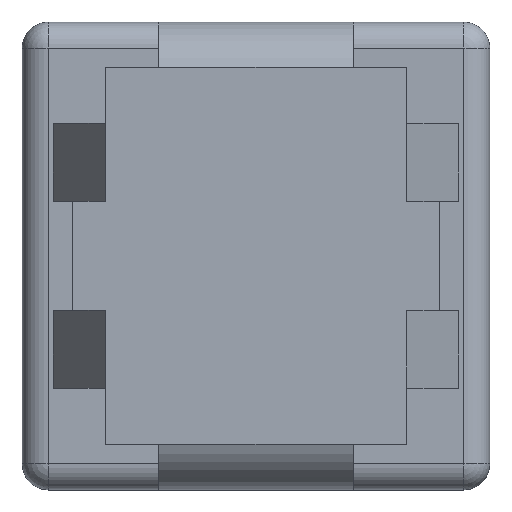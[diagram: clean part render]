
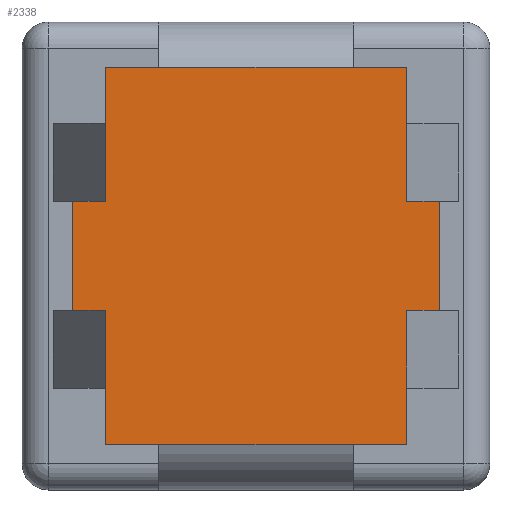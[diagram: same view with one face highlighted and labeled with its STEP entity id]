
A CAD part, top view. The second image highlights one B-rep face of the part: STEP entity #2338.
In plain terms, the highlighted planar face has unit normal (0, 0, 1).
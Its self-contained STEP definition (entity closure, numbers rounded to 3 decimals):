
#114=CARTESIAN_POINT('',(17.034,-24.1,0.193));
#115=VERTEX_POINT('',#114);
#122=CARTESIAN_POINT('',(15.784,-24.1,0.193));
#123=VERTEX_POINT('',#122);
#124=CARTESIAN_POINT('',(17.034,-24.1,0.193));
#125=DIRECTION('',(-1.,0.,-0.));
#126=VECTOR('',#125,1.25);
#127=LINE('',#124,#126);
#128=EDGE_CURVE('',#115,#123,#127,.T.);
#154=CARTESIAN_POINT('',(15.784,-19.9,0.193));
#155=VERTEX_POINT('',#154);
#162=CARTESIAN_POINT('',(17.034,-19.9,0.193));
#163=VERTEX_POINT('',#162);
#164=CARTESIAN_POINT('',(15.784,-19.9,0.193));
#165=DIRECTION('',(1.,-0.,0.));
#166=VECTOR('',#165,1.25);
#167=LINE('',#164,#166);
#168=EDGE_CURVE('',#155,#163,#167,.T.);
#1807=CARTESIAN_POINT('',(15.784,-14.75,0.193));
#1808=VERTEX_POINT('',#1807);
#1815=CARTESIAN_POINT('',(15.784,-14.75,0.193));
#1816=DIRECTION('',(-0.,-1.,-0.));
#1817=VECTOR('',#1816,5.15);
#1818=LINE('',#1815,#1817);
#1819=EDGE_CURVE('',#1808,#155,#1818,.T.);
#1880=CARTESIAN_POINT('',(4.184,-24.1,0.193));
#1881=VERTEX_POINT('',#1880);
#1888=CARTESIAN_POINT('',(2.934,-24.1,0.193));
#1889=VERTEX_POINT('',#1888);
#1890=CARTESIAN_POINT('',(4.184,-24.1,0.193));
#1891=DIRECTION('',(-1.,0.,-0.));
#1892=VECTOR('',#1891,1.25);
#1893=LINE('',#1890,#1892);
#1894=EDGE_CURVE('',#1881,#1889,#1893,.T.);
#1918=CARTESIAN_POINT('',(4.184,-19.9,0.193));
#1919=VERTEX_POINT('',#1918);
#1926=CARTESIAN_POINT('',(4.184,-17.375,0.193));
#1927=VERTEX_POINT('',#1926);
#1928=CARTESIAN_POINT('',(4.184,-19.9,0.193));
#1929=DIRECTION('',(-0.,1.,0.));
#1930=VECTOR('',#1929,2.525);
#1931=LINE('',#1928,#1930);
#1932=EDGE_CURVE('',#1919,#1927,#1931,.T.);
#1934=CARTESIAN_POINT('',(4.184,-14.75,0.193));
#1935=VERTEX_POINT('',#1934);
#1936=CARTESIAN_POINT('',(4.184,-17.375,0.193));
#1937=DIRECTION('',(-0.,1.,0.));
#1938=VECTOR('',#1937,2.625);
#1939=LINE('',#1936,#1938);
#1940=EDGE_CURVE('',#1927,#1935,#1939,.T.);
#2213=CARTESIAN_POINT('',(21.484,-22.,0.193));
#2214=DIRECTION('',(-0.,-0.,1.));
#2215=DIRECTION('',(1.,-0.,0.));
#2216=AXIS2_PLACEMENT_3D('',#2213,#2214,#2215);
#2217=PLANE('',#2216);
#2218=CARTESIAN_POINT('',(13.984,-14.75,0.193));
#2219=VERTEX_POINT('',#2218);
#2220=CARTESIAN_POINT('',(13.984,-14.75,0.193));
#2221=DIRECTION('',(1.,-0.,0.));
#2222=VECTOR('',#2221,1.8);
#2223=LINE('',#2220,#2222);
#2224=EDGE_CURVE('',#2219,#1808,#2223,.T.);
#2225=ORIENTED_EDGE('',*,*,#2224,.F.);
#2226=CARTESIAN_POINT('',(9.984,-14.75,0.193));
#2227=VERTEX_POINT('',#2226);
#2228=CARTESIAN_POINT('',(9.984,-14.75,0.193));
#2229=DIRECTION('',(1.,-0.,0.));
#2230=VECTOR('',#2229,4.);
#2231=LINE('',#2228,#2230);
#2232=EDGE_CURVE('',#2227,#2219,#2231,.T.);
#2233=ORIENTED_EDGE('',*,*,#2232,.F.);
#2234=CARTESIAN_POINT('',(5.984,-14.75,0.193));
#2235=VERTEX_POINT('',#2234);
#2236=CARTESIAN_POINT('',(5.984,-14.75,0.193));
#2237=DIRECTION('',(1.,-0.,0.));
#2238=VECTOR('',#2237,4.);
#2239=LINE('',#2236,#2238);
#2240=EDGE_CURVE('',#2235,#2227,#2239,.T.);
#2241=ORIENTED_EDGE('',*,*,#2240,.F.);
#2242=CARTESIAN_POINT('',(4.184,-14.75,0.193));
#2243=DIRECTION('',(1.,-0.,0.));
#2244=VECTOR('',#2243,1.8);
#2245=LINE('',#2242,#2244);
#2246=EDGE_CURVE('',#1935,#2235,#2245,.T.);
#2247=ORIENTED_EDGE('',*,*,#2246,.F.);
#2248=ORIENTED_EDGE('',*,*,#1940,.F.);
#2249=ORIENTED_EDGE('',*,*,#1932,.F.);
#2250=CARTESIAN_POINT('',(2.934,-19.9,0.193));
#2251=VERTEX_POINT('',#2250);
#2252=CARTESIAN_POINT('',(2.934,-19.9,0.193));
#2253=DIRECTION('',(1.,-0.,0.));
#2254=VECTOR('',#2253,1.25);
#2255=LINE('',#2252,#2254);
#2256=EDGE_CURVE('',#2251,#1919,#2255,.T.);
#2257=ORIENTED_EDGE('',*,*,#2256,.F.);
#2258=CARTESIAN_POINT('',(2.934,-22.,0.193));
#2259=VERTEX_POINT('',#2258);
#2260=CARTESIAN_POINT('',(2.934,-22.,0.193));
#2261=DIRECTION('',(0.,1.,0.));
#2262=VECTOR('',#2261,2.1);
#2263=LINE('',#2260,#2262);
#2264=EDGE_CURVE('',#2259,#2251,#2263,.T.);
#2265=ORIENTED_EDGE('',*,*,#2264,.F.);
#2266=CARTESIAN_POINT('',(2.934,-24.1,0.193));
#2267=DIRECTION('',(0.,1.,0.));
#2268=VECTOR('',#2267,2.1);
#2269=LINE('',#2266,#2268);
#2270=EDGE_CURVE('',#1889,#2259,#2269,.T.);
#2271=ORIENTED_EDGE('',*,*,#2270,.F.);
#2272=ORIENTED_EDGE('',*,*,#1894,.F.);
#2273=CARTESIAN_POINT('',(4.184,-26.625,0.193));
#2274=VERTEX_POINT('',#2273);
#2275=CARTESIAN_POINT('',(4.184,-26.625,0.193));
#2276=DIRECTION('',(-0.,1.,0.));
#2277=VECTOR('',#2276,2.525);
#2278=LINE('',#2275,#2277);
#2279=EDGE_CURVE('',#2274,#1881,#2278,.T.);
#2280=ORIENTED_EDGE('',*,*,#2279,.F.);
#2281=CARTESIAN_POINT('',(4.184,-29.25,0.193));
#2282=VERTEX_POINT('',#2281);
#2283=CARTESIAN_POINT('',(4.184,-29.25,0.193));
#2284=DIRECTION('',(-0.,1.,0.));
#2285=VECTOR('',#2284,2.625);
#2286=LINE('',#2283,#2285);
#2287=EDGE_CURVE('',#2282,#2274,#2286,.T.);
#2288=ORIENTED_EDGE('',*,*,#2287,.F.);
#2289=CARTESIAN_POINT('',(5.984,-29.25,0.193));
#2290=VERTEX_POINT('',#2289);
#2291=CARTESIAN_POINT('',(5.984,-29.25,0.193));
#2292=DIRECTION('',(-1.,0.,-0.));
#2293=VECTOR('',#2292,1.8);
#2294=LINE('',#2291,#2293);
#2295=EDGE_CURVE('',#2290,#2282,#2294,.T.);
#2296=ORIENTED_EDGE('',*,*,#2295,.F.);
#2297=CARTESIAN_POINT('',(9.984,-29.25,0.193));
#2298=VERTEX_POINT('',#2297);
#2299=CARTESIAN_POINT('',(9.984,-29.25,0.193));
#2300=DIRECTION('',(-1.,0.,-0.));
#2301=VECTOR('',#2300,4.);
#2302=LINE('',#2299,#2301);
#2303=EDGE_CURVE('',#2298,#2290,#2302,.T.);
#2304=ORIENTED_EDGE('',*,*,#2303,.F.);
#2305=CARTESIAN_POINT('',(13.984,-29.25,0.193));
#2306=VERTEX_POINT('',#2305);
#2307=CARTESIAN_POINT('',(13.984,-29.25,0.193));
#2308=DIRECTION('',(-1.,0.,-0.));
#2309=VECTOR('',#2308,4.);
#2310=LINE('',#2307,#2309);
#2311=EDGE_CURVE('',#2306,#2298,#2310,.T.);
#2312=ORIENTED_EDGE('',*,*,#2311,.F.);
#2313=CARTESIAN_POINT('',(15.784,-29.25,0.193));
#2314=VERTEX_POINT('',#2313);
#2315=CARTESIAN_POINT('',(15.784,-29.25,0.193));
#2316=DIRECTION('',(-1.,0.,-0.));
#2317=VECTOR('',#2316,1.8);
#2318=LINE('',#2315,#2317);
#2319=EDGE_CURVE('',#2314,#2306,#2318,.T.);
#2320=ORIENTED_EDGE('',*,*,#2319,.F.);
#2321=CARTESIAN_POINT('',(15.784,-24.1,0.193));
#2322=DIRECTION('',(-0.,-1.,-0.));
#2323=VECTOR('',#2322,5.15);
#2324=LINE('',#2321,#2323);
#2325=EDGE_CURVE('',#123,#2314,#2324,.T.);
#2326=ORIENTED_EDGE('',*,*,#2325,.F.);
#2327=ORIENTED_EDGE('',*,*,#128,.F.);
#2328=CARTESIAN_POINT('',(17.034,-19.9,0.193));
#2329=DIRECTION('',(-0.,-1.,-0.));
#2330=VECTOR('',#2329,4.2);
#2331=LINE('',#2328,#2330);
#2332=EDGE_CURVE('',#163,#115,#2331,.T.);
#2333=ORIENTED_EDGE('',*,*,#2332,.F.);
#2334=ORIENTED_EDGE('',*,*,#168,.F.);
#2335=ORIENTED_EDGE('',*,*,#1819,.F.);
#2336=EDGE_LOOP('',(#2225,#2233,#2241,#2247,#2248,#2249,#2257,#2265,#2271,#2272,#2280,#2288,#2296,#2304,#2312,#2320,#2326,#2327,#2333,#2334,#2335));
#2337=FACE_BOUND('',#2336,.T.);
#2338=ADVANCED_FACE('',(#2337),#2217,.T.);
